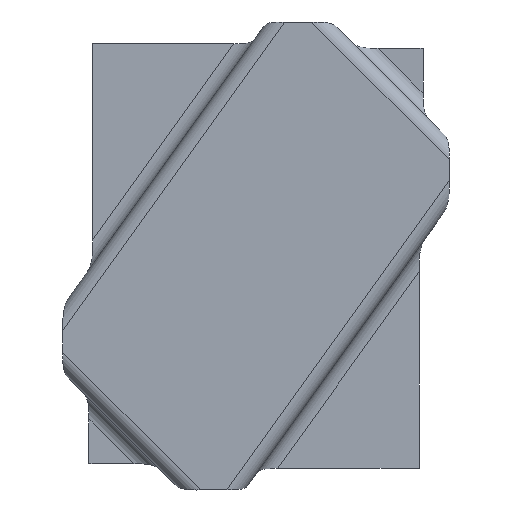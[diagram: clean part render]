
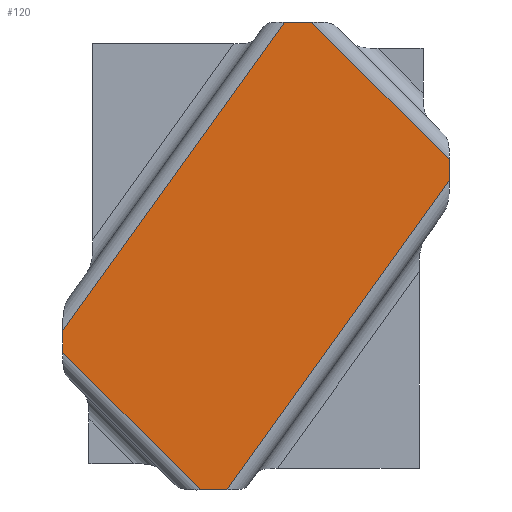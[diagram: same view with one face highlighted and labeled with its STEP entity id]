
A CAD part, top view. The second image highlights one B-rep face of the part: STEP entity #120.
In plain terms, the highlighted planar face has unit normal (0, 0, -1).
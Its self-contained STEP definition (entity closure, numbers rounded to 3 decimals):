
#53=CARTESIAN_POINT('Axis2P3D Location',(-52.147,37.494,64.727)) ;
#59=CARTESIAN_POINT('Control Point',(-52.147,76.685,64.727)) ;
#60=CARTESIAN_POINT('Control Point',(2.359,152.494,64.727)) ;
#61=CARTESIAN_POINT('Vertex',(-52.147,76.685,64.727)) ;
#63=CARTESIAN_POINT('Vertex',(2.359,152.494,64.727)) ;
#66=CARTESIAN_POINT('Line Origine',(-4.647,152.494,64.727)) ;
#70=CARTESIAN_POINT('Vertex',(9.027,152.494,64.727)) ;
#74=CARTESIAN_POINT('Control Point',(9.027,152.494,64.727)) ;
#75=CARTESIAN_POINT('Control Point',(42.853,118.668,64.727)) ;
#76=CARTESIAN_POINT('Vertex',(42.853,118.668,64.727)) ;
#79=CARTESIAN_POINT('Line Origine',(42.853,94.994,64.727)) ;
#83=CARTESIAN_POINT('Vertex',(42.853,113.506,64.727)) ;
#87=CARTESIAN_POINT('Control Point',(42.853,113.506,64.727)) ;
#88=CARTESIAN_POINT('Control Point',(-11.8,37.494,64.727)) ;
#89=CARTESIAN_POINT('Vertex',(-11.8,37.494,64.727)) ;
#92=CARTESIAN_POINT('Line Origine',(-4.647,37.494,64.727)) ;
#96=CARTESIAN_POINT('Vertex',(-18.321,37.494,64.727)) ;
#100=CARTESIAN_POINT('Control Point',(-52.147,71.32,64.727)) ;
#101=CARTESIAN_POINT('Control Point',(-18.321,37.494,64.727)) ;
#102=CARTESIAN_POINT('Vertex',(-52.147,71.32,64.727)) ;
#105=CARTESIAN_POINT('Line Origine',(-52.147,94.994,64.727)) ;
#54=DIRECTION('Axis2P3D Direction',(0.,0.,1.)) ;
#55=DIRECTION('Axis2P3D XDirection',(1.,0.,0.)) ;
#67=DIRECTION('Vector Direction',(1.,0.,0.)) ;
#80=DIRECTION('Vector Direction',(0.,1.,0.)) ;
#93=DIRECTION('Vector Direction',(1.,0.,0.)) ;
#106=DIRECTION('Vector Direction',(0.,1.,0.)) ;
#56=AXIS2_PLACEMENT_3D('Plane Axis2P3D',#53,#54,#55) ;
#111=ORIENTED_EDGE('',*,*,#65,.T.) ;
#112=ORIENTED_EDGE('',*,*,#72,.T.) ;
#113=ORIENTED_EDGE('',*,*,#78,.T.) ;
#114=ORIENTED_EDGE('',*,*,#85,.T.) ;
#115=ORIENTED_EDGE('',*,*,#91,.T.) ;
#116=ORIENTED_EDGE('',*,*,#98,.T.) ;
#117=ORIENTED_EDGE('',*,*,#104,.F.) ;
#118=ORIENTED_EDGE('',*,*,#109,.T.) ;
#68=VECTOR('Line Direction',#67,1.) ;
#81=VECTOR('Line Direction',#80,1.) ;
#94=VECTOR('Line Direction',#93,1.) ;
#107=VECTOR('Line Direction',#106,1.) ;
#120=ADVANCED_FACE('Offset.1',(#119),#57,.F.) ;
#58=B_SPLINE_CURVE_WITH_KNOTS('',1,(#59,#60),.UNSPECIFIED.,.F.,.U.,(2,2),(-46.685,46.685),.UNSPECIFIED.) ;
#73=B_SPLINE_CURVE_WITH_KNOTS('',1,(#74,#75),.UNSPECIFIED.,.F.,.U.,(2,2),(-23.919,23.919),.UNSPECIFIED.) ;
#86=B_SPLINE_CURVE_WITH_KNOTS('',1,(#87,#88),.UNSPECIFIED.,.F.,.U.,(2,2),(-46.81,46.81),.UNSPECIFIED.) ;
#99=B_SPLINE_CURVE_WITH_KNOTS('',1,(#100,#101),.UNSPECIFIED.,.F.,.U.,(2,2),(-23.919,23.919),.UNSPECIFIED.) ;
#65=EDGE_CURVE('',#62,#64,#58,.T.) ;
#72=EDGE_CURVE('',#64,#71,#69,.T.) ;
#78=EDGE_CURVE('',#71,#77,#73,.T.) ;
#85=EDGE_CURVE('',#77,#84,#82,.F.) ;
#91=EDGE_CURVE('',#84,#90,#86,.T.) ;
#98=EDGE_CURVE('',#90,#97,#95,.F.) ;
#104=EDGE_CURVE('',#103,#97,#99,.T.) ;
#109=EDGE_CURVE('',#103,#62,#108,.T.) ;
#110=EDGE_LOOP('',(#111,#112,#113,#114,#115,#116,#117,#118)) ;
#119=FACE_OUTER_BOUND('',#110,.T.) ;
#69=LINE('Line',#66,#68) ;
#82=LINE('Line',#79,#81) ;
#95=LINE('Line',#92,#94) ;
#108=LINE('Line',#105,#107) ;
#57=PLANE('',#56) ;
#62=VERTEX_POINT('',#61) ;
#64=VERTEX_POINT('',#63) ;
#71=VERTEX_POINT('',#70) ;
#77=VERTEX_POINT('',#76) ;
#84=VERTEX_POINT('',#83) ;
#90=VERTEX_POINT('',#89) ;
#97=VERTEX_POINT('',#96) ;
#103=VERTEX_POINT('',#102) ;
